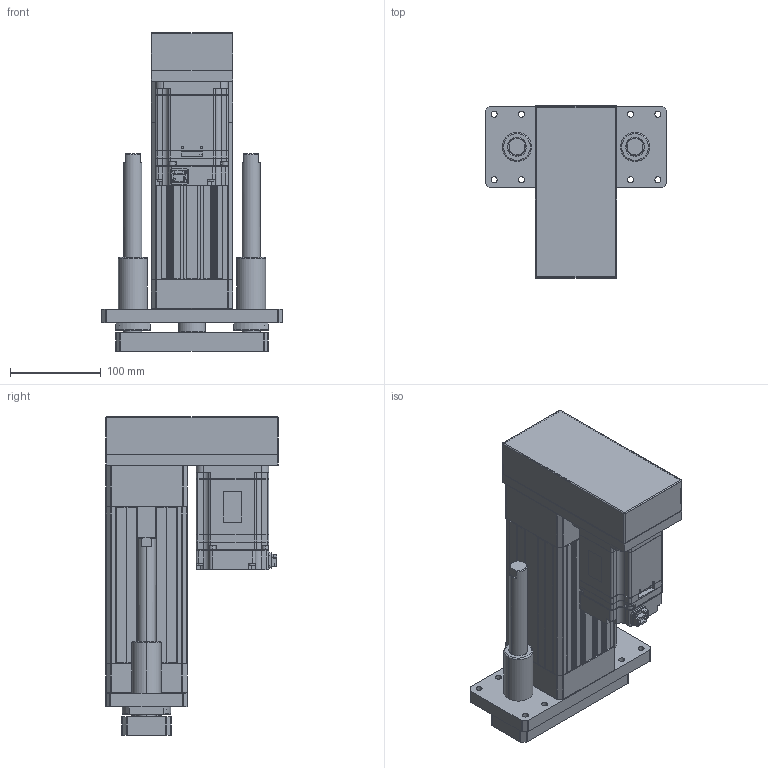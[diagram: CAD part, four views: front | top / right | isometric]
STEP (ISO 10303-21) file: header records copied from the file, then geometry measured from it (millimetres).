
FILE_DESCRIPTION (( 'STEP AP203' ), '1' );
FILE_NAME ('ANS090R-GP050-05(10)(20)-W75.STEP', '2019-03-02T08:49:32', ( 'user' ), ( '' ), 'SwSTEP 2.0', 'SolidWorks 2013', '' );
FILE_SCHEMA (( 'CONFIG_CONTROL_DESIGN' ));
Length unit declared in the file: millimetre
Products named in the file (4): ANS090R GP050 VER2; SGMJV_08A_A21; ANS090 ROD ST050-G; ANS090R-GP050-05(10)(20)-W75
Assembly tree (3 placements, depth 2):
  ANS090R-GP050-05(10)(20)-W75
    ANS090R GP050 VER2
    SGMJV_08A_A21
    ANS090 ROD ST050-G
Bounding box: 200 x 190 x 350 mm (x, y, z)
Volume: 2679452 mm3; surface area: 484494.1 mm2
Topology: 3 solids, 7 shells, 1393 faces, 3620 edges, 2322 vertices
Faces by surface type: plane 779, cylinder 454, cone 144, sphere 8, torus 4, bspline 4
Entity records: 43156 total; most frequent: CARTESIAN_POINT 7975, DIRECTION 7322, ORIENTED_EDGE 7200, EDGE_CURVE 3600, AXIS2_PLACEMENT_3D 2441, VECTOR 2440, LINE 2440, VERTEX_POINT 2322
